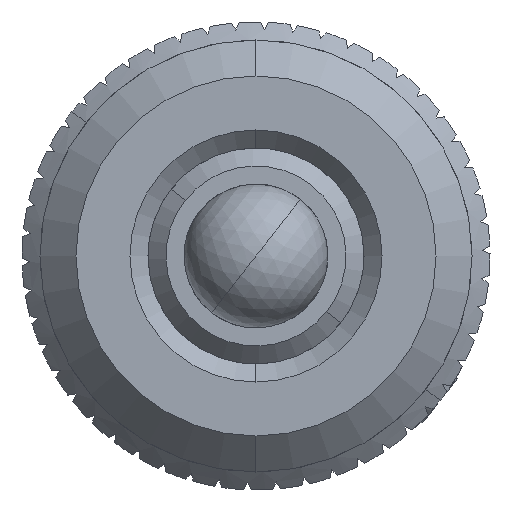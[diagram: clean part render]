
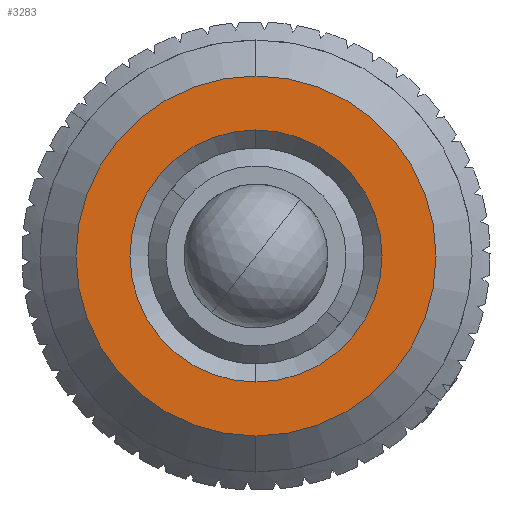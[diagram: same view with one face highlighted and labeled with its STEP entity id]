
A CAD part, left-side view. The second image highlights one B-rep face of the part: STEP entity #3283.
In plain terms, the highlighted planar face has unit normal (-1, 0, 0).
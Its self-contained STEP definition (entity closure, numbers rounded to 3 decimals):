
#37 = ORIENTED_EDGE ( 'NONE', *, *, #977, .T. ) ;
#101 = CARTESIAN_POINT ( 'NONE',  ( 0., 0., -5. ) ) ;
#353 = CIRCLE ( 'NONE', #6960, 3.5 ) ;
#546 = DIRECTION ( 'NONE',  ( 0., 0., -1. ) ) ;
#640 = EDGE_CURVE ( 'NONE', #1881, #5692, #353, .T. ) ;
#824 = AXIS2_PLACEMENT_3D ( 'NONE', #6511, #4342, #546 ) ;
#977 = EDGE_CURVE ( 'NONE', #2532, #4888, #6889, .T. ) ;
#1006 = DIRECTION ( 'NONE',  ( 1., 0., 0. ) ) ;
#1256 = DIRECTION ( 'NONE',  ( 0., 0., -1. ) ) ;
#1675 = AXIS2_PLACEMENT_3D ( 'NONE', #9108, #4715, #7777 ) ;
#1881 = VERTEX_POINT ( 'NONE', #9058 ) ;
#2323 = ORIENTED_EDGE ( 'NONE', *, *, #640, .T. ) ;
#2382 = FACE_OUTER_BOUND ( 'NONE', #6204, .T. ) ;
#2518 = PLANE ( 'NONE',  #1675 ) ;
#2532 = VERTEX_POINT ( 'NONE', #101 ) ;
#2551 = DIRECTION ( 'NONE',  ( 0., 0., -1. ) ) ;
#2778 = CARTESIAN_POINT ( 'NONE',  ( 0., 0., 0. ) ) ;
#3283 = ADVANCED_FACE ( 'NONE', ( #8146, #2382 ), #2518, .F. ) ;
#3309 = CARTESIAN_POINT ( 'NONE',  ( 0., 0., 3.5 ) ) ;
#3586 = DIRECTION ( 'NONE',  ( -1., 0., 0. ) ) ;
#4130 = DIRECTION ( 'NONE',  ( 1., 0., 0. ) ) ;
#4190 = EDGE_LOOP ( 'NONE', ( #6235, #2323 ) ) ;
#4319 = EDGE_CURVE ( 'NONE', #4888, #2532, #6273, .T. ) ;
#4342 = DIRECTION ( 'NONE',  ( -1., 0., 0. ) ) ;
#4715 = DIRECTION ( 'NONE',  ( 1., 0., 0. ) ) ;
#4888 = VERTEX_POINT ( 'NONE', #5804 ) ;
#4963 = AXIS2_PLACEMENT_3D ( 'NONE', #7710, #1006, #2551 ) ;
#5095 = CARTESIAN_POINT ( 'NONE',  ( 0., 0., 0. ) ) ;
#5692 = VERTEX_POINT ( 'NONE', #3309 ) ;
#5803 = AXIS2_PLACEMENT_3D ( 'NONE', #5095, #3586, #9430 ) ;
#5804 = CARTESIAN_POINT ( 'NONE',  ( 0., 0., 5. ) ) ;
#6204 = EDGE_LOOP ( 'NONE', ( #37, #9013 ) ) ;
#6235 = ORIENTED_EDGE ( 'NONE', *, *, #6412, .T. ) ;
#6273 = CIRCLE ( 'NONE', #824, 5. ) ;
#6412 = EDGE_CURVE ( 'NONE', #5692, #1881, #9334, .T. ) ;
#6511 = CARTESIAN_POINT ( 'NONE',  ( 0., 0., 0. ) ) ;
#6889 = CIRCLE ( 'NONE', #5803, 5. ) ;
#6960 = AXIS2_PLACEMENT_3D ( 'NONE', #2778, #4130, #1256 ) ;
#7710 = CARTESIAN_POINT ( 'NONE',  ( 0., 0., 0. ) ) ;
#7777 = DIRECTION ( 'NONE',  ( 0., 0., -1. ) ) ;
#8146 = FACE_BOUND ( 'NONE', #4190, .T. ) ;
#9013 = ORIENTED_EDGE ( 'NONE', *, *, #4319, .T. ) ;
#9058 = CARTESIAN_POINT ( 'NONE',  ( 0., 0., -3.5 ) ) ;
#9108 = CARTESIAN_POINT ( 'NONE',  ( 0., 3., 0. ) ) ;
#9334 = CIRCLE ( 'NONE', #4963, 3.5 ) ;
#9430 = DIRECTION ( 'NONE',  ( 0., 0., -1. ) ) ;
